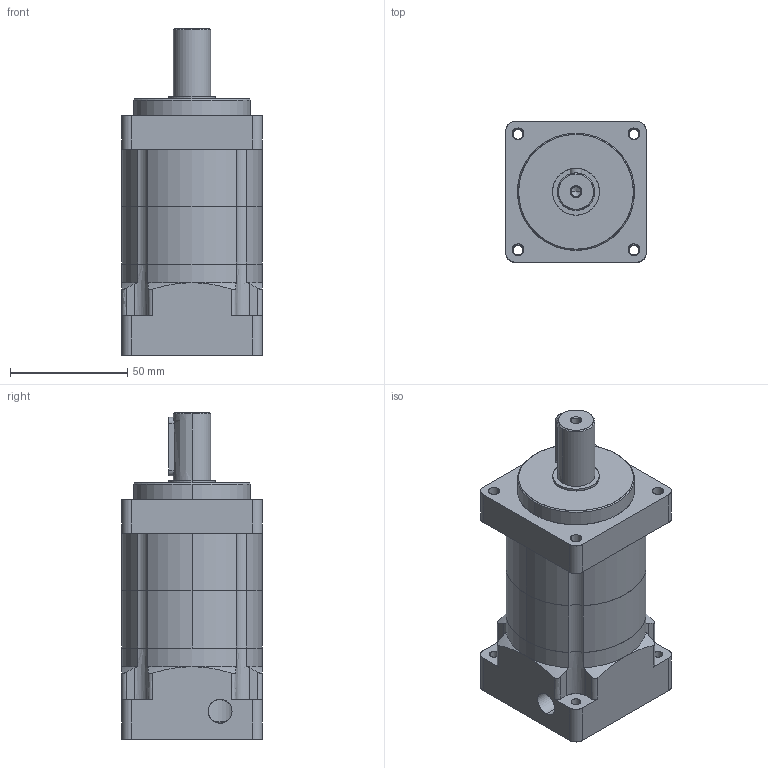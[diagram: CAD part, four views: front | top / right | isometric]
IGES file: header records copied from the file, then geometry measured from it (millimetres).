
Start section: SolidWorks IGES file using analytic representation for surfaces
Global section: file name: C:\Users\render\Documents\CAD Files\S-Gearboxes\SL-060-025\SL-060-025.IGS; native system: SolidWorks 2009; preprocessor: SolidWorks 2009; author: render; date: 100519.114635; units: millimetre
Bounding box: 60 x 60 x 139.5 mm (x, y, z)
Surface area: 62611.1 mm2 (no closed solid volume)
Topology: 0 solids, 0 shells, 145 faces, 3028 edges, 3026 vertices
Faces by surface type: revolution 101, bspline 44
